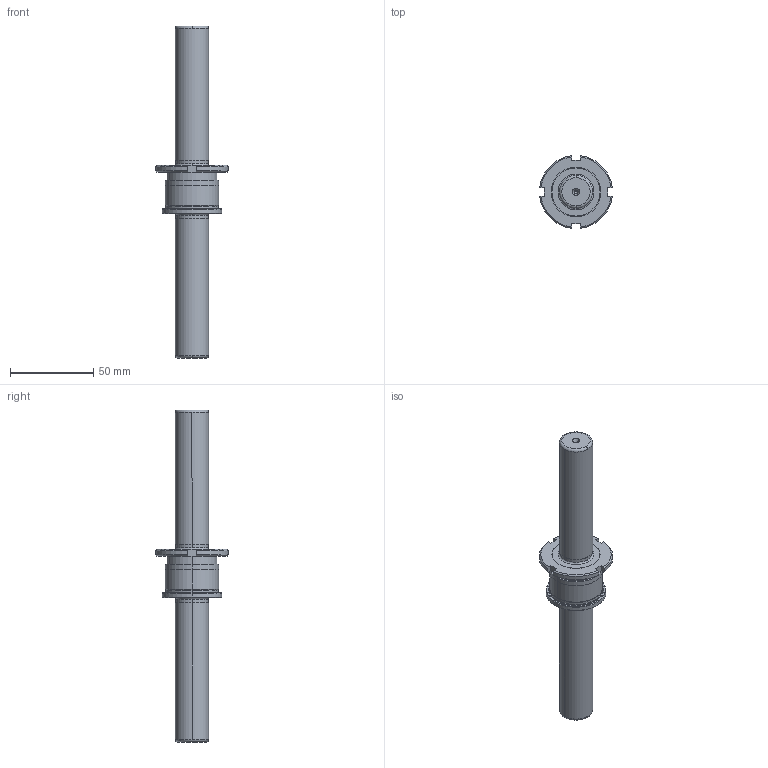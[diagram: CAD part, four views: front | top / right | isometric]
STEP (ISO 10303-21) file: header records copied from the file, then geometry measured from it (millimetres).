
FILE_DESCRIPTION((''),'2;1');
FILE_NAME('CMF_020_200.stp','2008-11-04T11:09:14',(''),(''),'Mechanical Desktop 2009','Mechanical Desktop 2009',', , ');
FILE_SCHEMA(('CONFIG_CONTROL_DESIGN'));
Length unit declared in the file: millimetre
Products named in the file (2): Product; blmdl1
Assembly tree (1 placements, depth 2):
  Product
    blmdl1
Bounding box: 43.72 x 43.72 x 200 mm (x, y, z)
Volume: 79310.2 mm3; surface area: 18388.9 mm2
Topology: 2 solids, 2 shells, 92 faces, 223 edges, 141 vertices
Faces by surface type: cylinder 30, cone 28, plane 24, bspline 6, torus 4
Entity records: 3035 total; most frequent: CARTESIAN_POINT 750, DIRECTION 496, ORIENTED_EDGE 438, EDGE_CURVE 219, AXIS2_PLACEMENT_3D 205, VERTEX_POINT 141, CIRCLE 117, EDGE_LOOP 104
